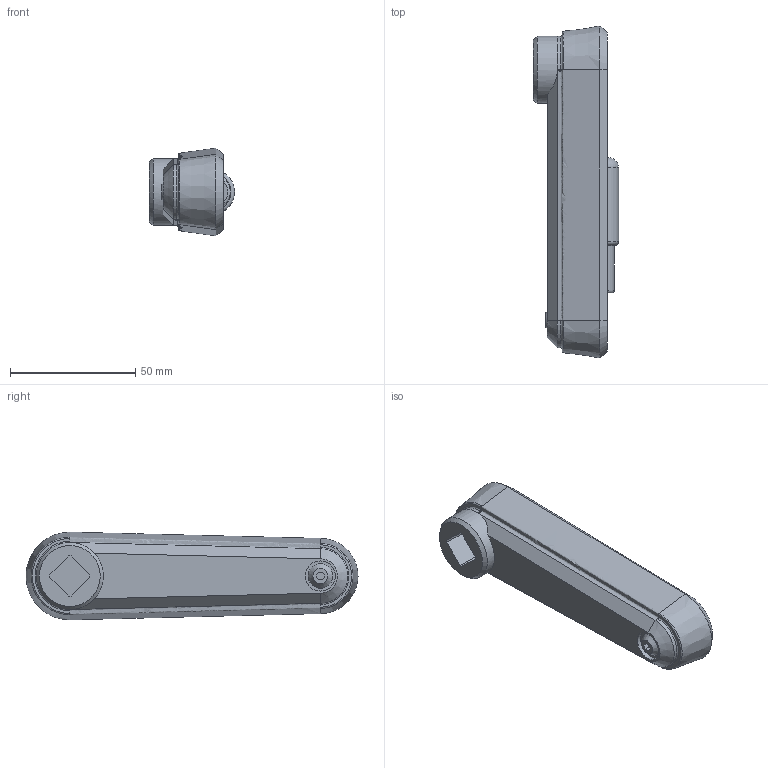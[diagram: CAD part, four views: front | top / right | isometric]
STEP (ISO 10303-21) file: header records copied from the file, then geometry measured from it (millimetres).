
FILE_DESCRIPTION( ( 'STEP AP203' ), '1' );
FILE_NAME( 'C:/Temp/Ganter_Step_05_03_2020/data/1_3/gn_472_3/Cranked handle with retractable handle GN 472.3-100-V12-SW (unactivated).stp', '2020-03-05T10:46:00', ( 'License CC BY-ND 4.0' ), ( 'CADENAS' ), ' ', 'PARTsolutions', ' ' );
FILE_SCHEMA( ( 'CONFIG_CONTROL_DESIGN' ) );
Length unit declared in the file: millimetre
Products named in the file (3): Cranked handle with retractable handle GN 472.3-100-V12-SW (unactivated); _Cranked handle with retractable handle GN 472.3-100-V12-SW (0)-1; _Cranked handle with retractable handle GN 472.3-100-V12-SW (0)-2
Assembly tree (2 placements, depth 2):
  Cranked handle with retractable handle GN 472.3-100-V12-SW (unactivated)
    _Cranked handle with retractable handle GN 472.3-100-V12-SW (0)-1
    _Cranked handle with retractable handle GN 472.3-100-V12-SW (0)-2
Bounding box: 34 x 132.5 x 35 mm (x, y, z)
Volume: 66833 mm3; surface area: 23940 mm2
Topology: 2 solids, 3 shells, 101 faces, 250 edges, 165 vertices
Faces by surface type: plane 50, cylinder 26, torus 12, cone 10, bspline 2, sphere 1
Full cylindrical faces by diameter (mm): 3 x2, 8 x1, 9.5 x1, 12 x1, 14.5 x1, 16.02 x1, 18 x1, 20 x2, 26.7 x1
Entity records: 3154 total; most frequent: CARTESIAN_POINT 764, DIRECTION 467, ORIENTED_EDGE 448, EDGE_CURVE 224, AXIS2_PLACEMENT_3D 184, VERTEX_POINT 160, EDGE_LOOP 135, FACE_OUTER_BOUND 118
